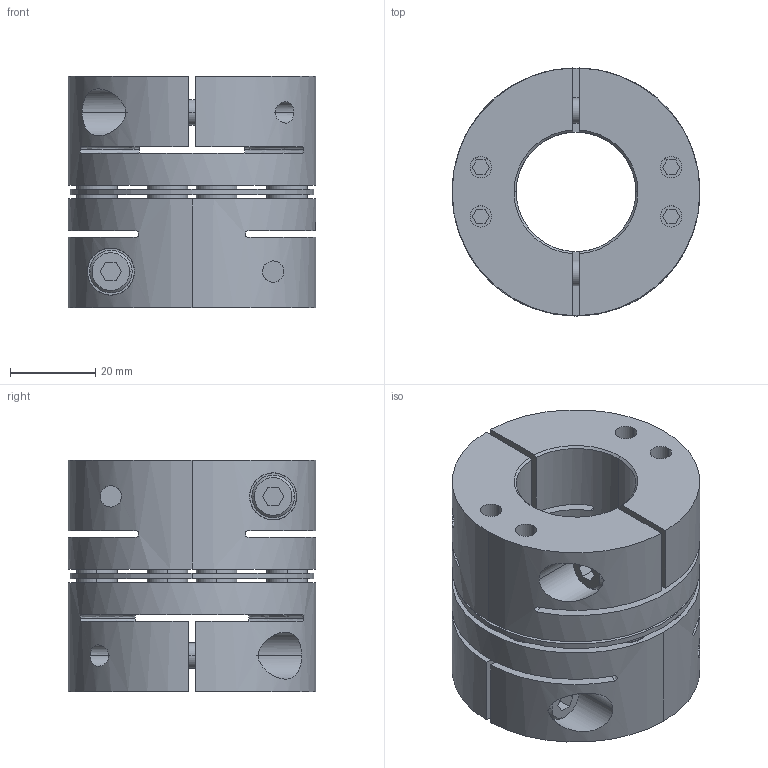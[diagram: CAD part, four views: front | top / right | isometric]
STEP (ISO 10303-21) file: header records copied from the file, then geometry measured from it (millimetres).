
FILE_DESCRIPTION((''),'2;1');
FILE_NAME('TAS-58C-28×30.stp','2022-11-14T22:27:43',(''),(''),'AutoCAD STEP 2000i','AutoCAD 2000i',', , ');
FILE_SCHEMA(('CONFIG_CONTROL_DESIGN'));
Length unit declared in the file: millimetre
Products named in the file (7): TAS-58C-22×22; 忣兜1; TA58C-22-2; CAP-M6×20; TA58C-22; TA58C-12-2; TA58C-12
Assembly tree (9 placements, depth 3):
  TAS-58C-22×22
    忣兜1
    TA58C-22-2
      CAP-M6×20
    TA58C-22
      CAP-M6×20
    TA58C-12-2
      CAP-M6×20
    TA58C-12
      CAP-M6×20
Bounding box: 58 x 58 x 54.25 mm (x, y, z)
Volume: 90141.2 mm3; surface area: 39807.1 mm2
Topology: 1 solids, 1 shells, 360 faces, 903 edges, 645 vertices
Faces by surface type: plane 160, cylinder 148, cone 36, bspline 16
Entity records: 12875 total; most frequent: CARTESIAN_POINT 3843, DIRECTION 1936, ORIENTED_EDGE 1720, EDGE_CURVE 860, AXIS2_PLACEMENT_3D 735, VERTEX_POINT 564, VECTOR 466, LINE 466
